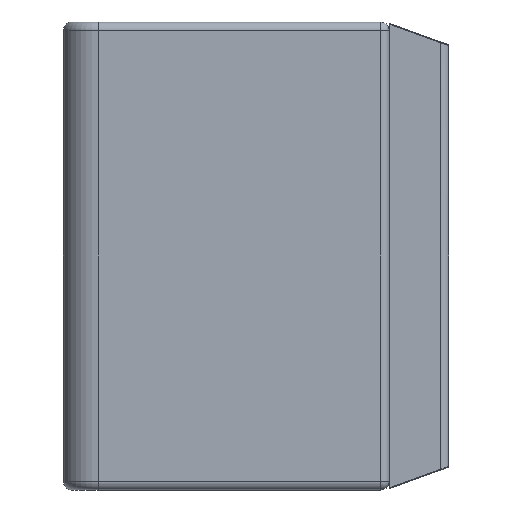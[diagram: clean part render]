
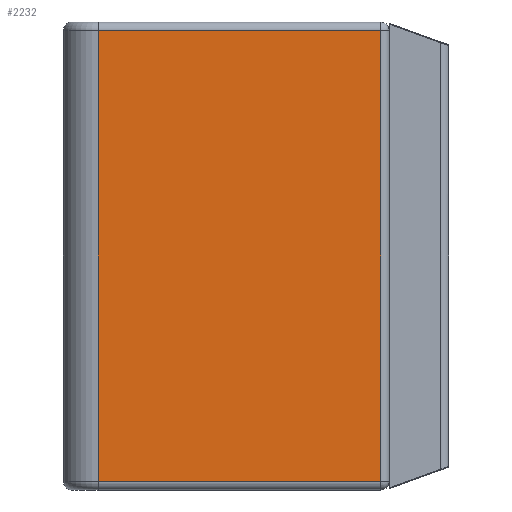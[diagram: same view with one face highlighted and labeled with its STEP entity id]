
A CAD part, left-side view. The second image highlights one B-rep face of the part: STEP entity #2232.
In plain terms, the highlighted planar face has unit normal (-1, 0, 0).
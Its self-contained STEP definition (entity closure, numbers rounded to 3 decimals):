
#298=FACE_OUTER_BOUND('',#448,.T.);
#448=EDGE_LOOP('',(#1838,#1839,#1840,#1841));
#670=LINE('',#3890,#884);
#671=LINE('',#3892,#885);
#672=LINE('',#3894,#886);
#673=LINE('',#3895,#887);
#884=VECTOR('',#2980,1000.);
#885=VECTOR('',#2981,1000.);
#886=VECTOR('',#2982,1000.);
#887=VECTOR('',#2983,1000.);
#1068=VERTEX_POINT('',#3888);
#1069=VERTEX_POINT('',#3889);
#1070=VERTEX_POINT('',#3891);
#1071=VERTEX_POINT('',#3893);
#1326=EDGE_CURVE('',#1068,#1069,#670,.T.);
#1327=EDGE_CURVE('',#1069,#1070,#671,.T.);
#1328=EDGE_CURVE('',#1070,#1071,#672,.T.);
#1329=EDGE_CURVE('',#1071,#1068,#673,.T.);
#1838=ORIENTED_EDGE('',*,*,#1326,.T.);
#1839=ORIENTED_EDGE('',*,*,#1327,.T.);
#1840=ORIENTED_EDGE('',*,*,#1328,.T.);
#1841=ORIENTED_EDGE('',*,*,#1329,.T.);
#2122=PLANE('',#2446);
#2232=ADVANCED_FACE('',(#298),#2122,.F.);
#2446=AXIS2_PLACEMENT_3D('',#3887,#2978,#2979);
#2978=DIRECTION('center_axis',(1.,0.,0.));
#2979=DIRECTION('ref_axis',(0.,1.,0.));
#2980=DIRECTION('',(0.,0.,1.));
#2981=DIRECTION('',(0.,1.,0.));
#2982=DIRECTION('',(0.,0.,-1.));
#2983=DIRECTION('',(0.,-1.,0.));
#3887=CARTESIAN_POINT('Origin',(-511.366,345.887,229.282));
#3888=CARTESIAN_POINT('',(-511.366,-27.113,-310.718));
#3889=CARTESIAN_POINT('',(-511.366,-27.113,219.282));
#3890=CARTESIAN_POINT('',(-511.366,-27.113,229.282));
#3891=CARTESIAN_POINT('',(-511.366,304.887,219.282));
#3892=CARTESIAN_POINT('',(-511.366,304.887,219.282));
#3893=CARTESIAN_POINT('',(-511.366,304.887,-310.718));
#3894=CARTESIAN_POINT('',(-511.366,304.887,229.282));
#3895=CARTESIAN_POINT('',(-511.366,345.887,-310.718));
